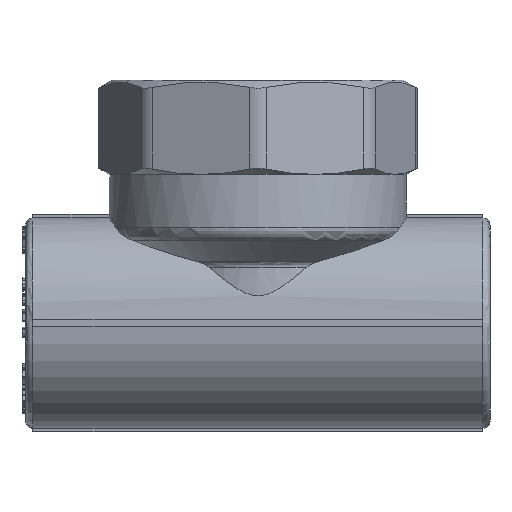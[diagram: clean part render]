
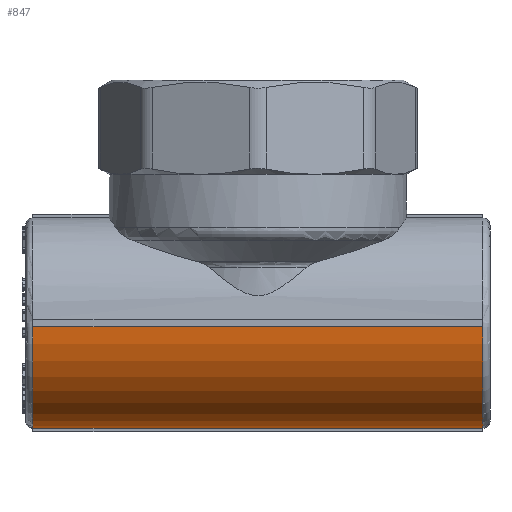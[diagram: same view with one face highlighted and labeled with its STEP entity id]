
A CAD part, left-side view. The second image highlights one B-rep face of the part: STEP entity #847.
In plain terms, the highlighted cylindrical face has radius 14.5 mm (diameter 29 mm), a partial arc.
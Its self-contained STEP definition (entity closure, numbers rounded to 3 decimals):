
#847=ADVANCED_FACE('',(#5164),#5166,.T.);
#5164=FACE_BOUND('',#5165,.T.);
#5165=EDGE_LOOP('',(#11563,#11564,#11565,#11566));
#5166=CYLINDRICAL_SURFACE('',#5167,14.5);
#5167=AXIS2_PLACEMENT_3D('',#5168,#5169,#5170);
#5168=CARTESIAN_POINT('',(0.,-32.,0.));
#5169=DIRECTION('',(0.,1.,0.));
#5170=DIRECTION('',(-1.,0.,0.));
#11563=ORIENTED_EDGE('',*,*,#15478,.F.);
#11564=ORIENTED_EDGE('',*,*,#14449,.T.);
#11565=ORIENTED_EDGE('',*,*,#15479,.F.);
#11566=ORIENTED_EDGE('',*,*,#14440,.F.);
#14440=EDGE_CURVE('',#17646,#17648,#17649,.T.);
#14449=EDGE_CURVE('',#17663,#17661,#17664,.T.);
#15478=EDGE_CURVE('',#17663,#17646,#19236,.T.);
#15479=EDGE_CURVE('',#17648,#17661,#19237,.F.);
#17646=VERTEX_POINT('',#26694);
#17648=VERTEX_POINT('',#26699);
#17649=CIRCLE('',#26700,14.5);
#17661=VERTEX_POINT('',#26733);
#17663=VERTEX_POINT('',#26738);
#17664=CIRCLE('',#26739,14.5);
#19236=LINE('',#31170,#31171);
#19237=LINE('',#31173,#31174);
#26694=CARTESIAN_POINT('',(-0.5,31.,-14.491));
#26699=CARTESIAN_POINT('',(-14.491,31.,-0.5));
#26700=AXIS2_PLACEMENT_3D('',#26701,#26702,#26703);
#26701=CARTESIAN_POINT('',(0.,31.,0.));
#26702=DIRECTION('',(0.,1.,0.));
#26703=DIRECTION('',(-0.034,0.,-0.999));
#26733=CARTESIAN_POINT('',(-14.491,-31.,-0.5));
#26738=CARTESIAN_POINT('',(-0.5,-31.,-14.491));
#26739=AXIS2_PLACEMENT_3D('',#26740,#26741,#26742);
#26740=CARTESIAN_POINT('',(0.,-31.,0.));
#26741=DIRECTION('',(0.,1.,0.));
#26742=DIRECTION('',(-0.034,0.,-0.999));
#31170=CARTESIAN_POINT('',(-0.5,-31.,-14.491));
#31171=VECTOR('',#31172,1.);
#31172=DIRECTION('',(0.,1.,0.));
#31173=CARTESIAN_POINT('',(-14.491,-31.,-0.5));
#31174=VECTOR('',#31175,1.);
#31175=DIRECTION('',(0.,1.,0.));
